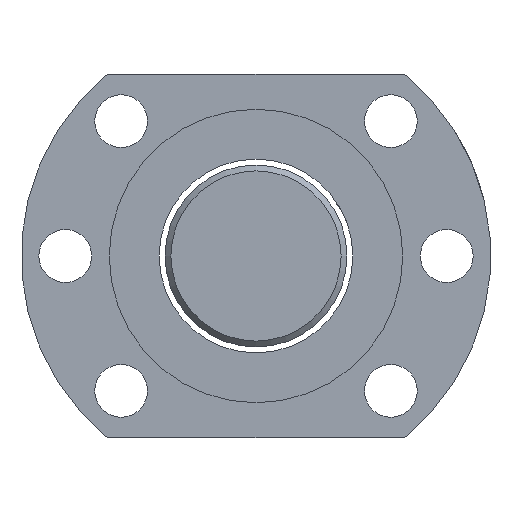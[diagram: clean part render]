
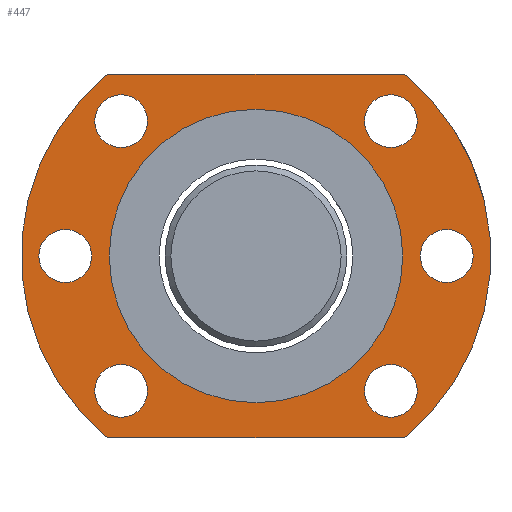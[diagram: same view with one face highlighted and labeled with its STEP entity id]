
A CAD part, left-side view. The second image highlights one B-rep face of the part: STEP entity #447.
In plain terms, the highlighted planar face has unit normal (-1, 0, 0).
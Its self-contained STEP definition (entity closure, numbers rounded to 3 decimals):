
#63=LINE('',#709,#71);
#68=LINE('',#751,#76);
#71=VECTOR('',#591,1000.);
#76=VECTOR('',#604,1000.);
#81=PLANE('',#518);
#121=ORIENTED_EDGE('',*,*,#186,.T.);
#122=ORIENTED_EDGE('',*,*,#190,.T.);
#123=ORIENTED_EDGE('',*,*,#192,.F.);
#124=ORIENTED_EDGE('',*,*,#194,.F.);
#125=ORIENTED_EDGE('',*,*,#196,.F.);
#126=ORIENTED_EDGE('',*,*,#211,.T.);
#127=ORIENTED_EDGE('',*,*,#208,.T.);
#128=ORIENTED_EDGE('',*,*,#205,.T.);
#129=ORIENTED_EDGE('',*,*,#197,.T.);
#130=ORIENTED_EDGE('',*,*,#213,.F.);
#131=ORIENTED_EDGE('',*,*,#188,.T.);
#186=EDGE_CURVE('',#234,#234,#274,.T.);
#188=EDGE_CURVE('',#236,#236,#276,.T.);
#190=EDGE_CURVE('',#238,#238,#278,.T.);
#192=EDGE_CURVE('',#240,#240,#280,.T.);
#194=EDGE_CURVE('',#242,#242,#282,.T.);
#196=EDGE_CURVE('',#244,#244,#284,.T.);
#197=EDGE_CURVE('',#245,#246,#63,.T.);
#205=EDGE_CURVE('',#253,#245,#285,.T.);
#208=EDGE_CURVE('',#255,#253,#68,.T.);
#211=EDGE_CURVE('',#246,#255,#287,.T.);
#213=EDGE_CURVE('',#257,#257,#289,.T.);
#234=VERTEX_POINT('',#682);
#236=VERTEX_POINT('',#687);
#238=VERTEX_POINT('',#692);
#240=VERTEX_POINT('',#697);
#242=VERTEX_POINT('',#702);
#244=VERTEX_POINT('',#707);
#245=VERTEX_POINT('',#710);
#246=VERTEX_POINT('',#711);
#253=VERTEX_POINT('',#746);
#255=VERTEX_POINT('',#752);
#257=VERTEX_POINT('',#761);
#274=CIRCLE('',#494,4.5);
#276=CIRCLE('',#497,4.5);
#278=CIRCLE('',#500,4.5);
#280=CIRCLE('',#503,4.5);
#282=CIRCLE('',#506,4.5);
#284=CIRCLE('',#509,4.5);
#285=CIRCLE('',#512,40.);
#287=CIRCLE('',#516,40.);
#289=CIRCLE('',#519,25.);
#319=EDGE_LOOP('',(#121));
#320=EDGE_LOOP('',(#122));
#321=EDGE_LOOP('',(#123));
#322=EDGE_LOOP('',(#124));
#323=EDGE_LOOP('',(#125));
#324=EDGE_LOOP('',(#126,#127,#128,#129));
#325=EDGE_LOOP('',(#130));
#326=EDGE_LOOP('',(#131));
#379=FACE_BOUND('',#319,.T.);
#380=FACE_BOUND('',#320,.T.);
#381=FACE_BOUND('',#321,.T.);
#382=FACE_BOUND('',#322,.T.);
#383=FACE_BOUND('',#323,.T.);
#384=FACE_BOUND('',#324,.T.);
#385=FACE_BOUND('',#325,.T.);
#386=FACE_BOUND('',#326,.T.);
#447=ADVANCED_FACE('',(#379,#380,#381,#382,#383,#384,#385,#386),#81,.T.);
#494=AXIS2_PLACEMENT_3D('',#681,#557,#558);
#497=AXIS2_PLACEMENT_3D('',#686,#563,#564);
#500=AXIS2_PLACEMENT_3D('',#691,#569,#570);
#503=AXIS2_PLACEMENT_3D('',#696,#575,#576);
#506=AXIS2_PLACEMENT_3D('',#701,#581,#582);
#509=AXIS2_PLACEMENT_3D('',#706,#587,#588);
#512=AXIS2_PLACEMENT_3D('',#745,#597,#598);
#516=AXIS2_PLACEMENT_3D('',#757,#609,#610);
#518=AXIS2_PLACEMENT_3D('',#759,#613,#614);
#519=AXIS2_PLACEMENT_3D('',#760,#615,#616);
#557=DIRECTION('',(1.,0.,0.));
#558=DIRECTION('',(0.,0.,1.));
#563=DIRECTION('',(1.,0.,0.));
#564=DIRECTION('',(0.,0.,1.));
#569=DIRECTION('',(1.,0.,0.));
#570=DIRECTION('',(0.,0.,1.));
#575=DIRECTION('',(-1.,0.,0.));
#576=DIRECTION('',(0.,0.,1.));
#581=DIRECTION('',(-1.,0.,0.));
#582=DIRECTION('',(0.,0.,1.));
#587=DIRECTION('',(-1.,0.,0.));
#588=DIRECTION('',(0.,0.,1.));
#591=DIRECTION('',(0.,1.,0.));
#597=DIRECTION('',(-1.,0.,0.));
#598=DIRECTION('',(0.,0.,-1.));
#604=DIRECTION('',(0.,-1.,0.));
#609=DIRECTION('',(-1.,0.,0.));
#610=DIRECTION('',(0.,0.,-1.));
#613=DIRECTION('',(-1.,0.,0.));
#614=DIRECTION('',(0.,0.,1.));
#615=DIRECTION('',(-1.,0.,0.));
#616=DIRECTION('',(0.,0.,-1.));
#681=CARTESIAN_POINT('',(-57.175,-71.724,19.106));
#682=CARTESIAN_POINT('',(-57.175,-71.724,23.606));
#686=CARTESIAN_POINT('',(-57.175,-81.243,-3.875));
#687=CARTESIAN_POINT('',(-57.175,-81.243,0.625));
#691=CARTESIAN_POINT('',(-57.175,-71.724,-26.856));
#692=CARTESIAN_POINT('',(-57.175,-71.724,-22.356));
#696=CARTESIAN_POINT('',(-57.175,-25.762,-26.856));
#697=CARTESIAN_POINT('',(-57.175,-25.762,-22.356));
#701=CARTESIAN_POINT('',(-57.175,-25.762,19.106));
#702=CARTESIAN_POINT('',(-57.175,-25.762,23.606));
#706=CARTESIAN_POINT('',(-57.175,-16.243,-3.875));
#707=CARTESIAN_POINT('',(-57.175,-16.243,0.625));
#709=CARTESIAN_POINT('',(-57.175,-74.021,27.125));
#710=CARTESIAN_POINT('',(-57.175,-74.021,27.125));
#711=CARTESIAN_POINT('',(-57.175,-23.464,27.125));
#745=CARTESIAN_POINT('',(-57.175,-48.743,-3.875));
#746=CARTESIAN_POINT('',(-57.175,-74.021,-34.875));
#751=CARTESIAN_POINT('',(-57.175,-23.464,-34.875));
#752=CARTESIAN_POINT('',(-57.175,-23.464,-34.875));
#757=CARTESIAN_POINT('',(-57.175,-48.743,-3.875));
#759=CARTESIAN_POINT('',(-57.175,-48.743,-3.875));
#760=CARTESIAN_POINT('',(-57.175,-48.743,-3.875));
#761=CARTESIAN_POINT('',(-57.175,-48.743,-28.875));
